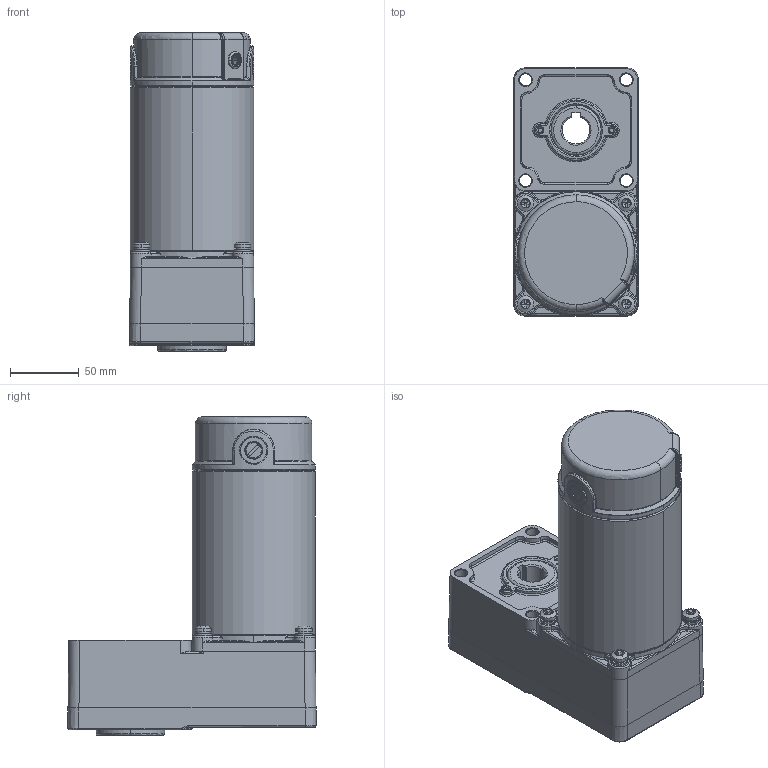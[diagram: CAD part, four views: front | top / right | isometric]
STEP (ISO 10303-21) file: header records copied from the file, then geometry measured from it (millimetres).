
FILE_DESCRIPTION (( 'STEP AP214' ), '1' );
FILE_NAME ('外径90配5GUL型齿轮箱-120机壳.STEP', '2021-07-24T02:11:49', ( '' ), ( '' ), 'SwSTEP 2.0', 'SolidWorks 2021', '' );
FILE_SCHEMA (( 'AUTOMOTIVE_DESIGN' ));
Length unit declared in the file: millimetre
Products named in the file (9): T_1; 外径90配5GUL型齿轮箱-120机壳; PRT0001_1; L_1; 90L倰喘謫眊; PRT0003_2_1; PRT0002_4; Z55D-300W-L_1; P_1
Assembly tree (21 placements, depth 3):
  外径90配5GUL型齿轮箱-120机壳
    Z55D-300W-L_1
      L_1  x6
      P_1  x4
      PRT0001_1
      T_1  x6
      PRT0003_2_1
      PRT0002_4
    90L倰喘謫眊
Bounding box: 90.99 x 180.99 x 232.5 mm (x, y, z)
Volume: 935222 mm3; surface area: 274841.1 mm2
Topology: 24 solids, 24 shells, 1754 faces, 4142 edges, 2436 vertices
Faces by surface type: bspline 598, cylinder 462, plane 312, cone 304, torus 75, sphere 3
Entity records: 86017 total; most frequent: CARTESIAN_POINT 58226, ORIENTED_EDGE 6882, DIRECTION 3975, EDGE_CURVE 3441, VERTEX_POINT 2033, B_SPLINE_CURVE_WITH_KNOTS 1681, AXIS2_PLACEMENT_3D 1596, EDGE_LOOP 1550
